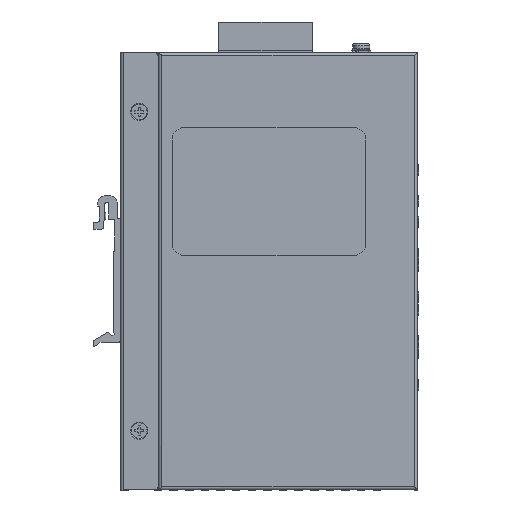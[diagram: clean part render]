
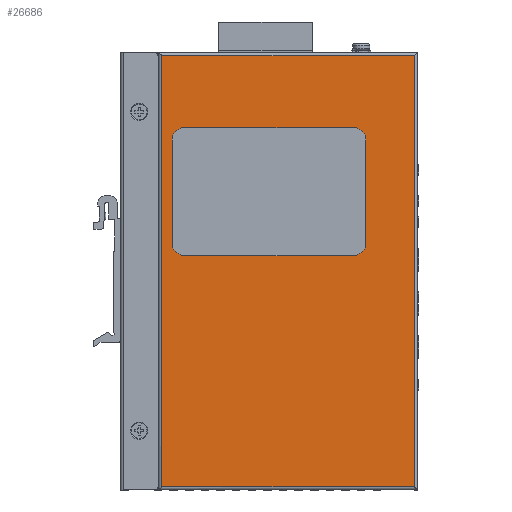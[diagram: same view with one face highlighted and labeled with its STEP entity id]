
A CAD part, left-side view. The second image highlights one B-rep face of the part: STEP entity #26686.
In plain terms, the highlighted planar face has unit normal (-1, 0, 0).
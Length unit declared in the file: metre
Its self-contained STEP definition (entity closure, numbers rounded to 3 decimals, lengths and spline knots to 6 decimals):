
#1493=CIRCLE('',#29536,0.004);
#1494=CIRCLE('',#29537,0.004);
#1495=CIRCLE('',#29538,0.004);
#1496=CIRCLE('',#29539,0.004);
#8833=ORIENTED_EDGE('',*,*,#12438,.T.);
#8834=ORIENTED_EDGE('',*,*,#12443,.T.);
#8835=ORIENTED_EDGE('',*,*,#12448,.T.);
#8836=ORIENTED_EDGE('',*,*,#12721,.T.);
#8837=ORIENTED_EDGE('',*,*,#12754,.F.);
#8838=ORIENTED_EDGE('',*,*,#12755,.F.);
#8839=ORIENTED_EDGE('',*,*,#12756,.F.);
#8840=ORIENTED_EDGE('',*,*,#12757,.F.);
#8841=ORIENTED_EDGE('',*,*,#12758,.F.);
#8842=ORIENTED_EDGE('',*,*,#12759,.F.);
#8843=ORIENTED_EDGE('',*,*,#12760,.F.);
#8844=ORIENTED_EDGE('',*,*,#12761,.F.);
#12438=EDGE_CURVE('',#15057,#15058,#17634,.T.);
#12443=EDGE_CURVE('',#15058,#15061,#17637,.T.);
#12448=EDGE_CURVE('',#15061,#15065,#17640,.T.);
#12721=EDGE_CURVE('',#15065,#15057,#17780,.T.);
#12754=EDGE_CURVE('',#15304,#15305,#17793,.T.);
#12755=EDGE_CURVE('',#15306,#15304,#1493,.T.);
#12756=EDGE_CURVE('',#15307,#15306,#17794,.T.);
#12757=EDGE_CURVE('',#15308,#15307,#1494,.T.);
#12758=EDGE_CURVE('',#15309,#15308,#17795,.T.);
#12759=EDGE_CURVE('',#15310,#15309,#1495,.T.);
#12760=EDGE_CURVE('',#15311,#15310,#17796,.T.);
#12761=EDGE_CURVE('',#15305,#15311,#1496,.T.);
#15057=VERTEX_POINT('',#48058);
#15058=VERTEX_POINT('',#48059);
#15061=VERTEX_POINT('',#48084);
#15065=VERTEX_POINT('',#48109);
#15304=VERTEX_POINT('',#48778);
#15305=VERTEX_POINT('',#48779);
#15306=VERTEX_POINT('',#48781);
#15307=VERTEX_POINT('',#48783);
#15308=VERTEX_POINT('',#48785);
#15309=VERTEX_POINT('',#48787);
#15310=VERTEX_POINT('',#48789);
#15311=VERTEX_POINT('',#48791);
#17634=LINE('',#48057,#20103);
#17637=LINE('',#48083,#20106);
#17640=LINE('',#48110,#20109);
#17780=LINE('',#48703,#20249);
#17793=LINE('',#48777,#20262);
#17794=LINE('',#48782,#20263);
#17795=LINE('',#48786,#20264);
#17796=LINE('',#48790,#20265);
#20103=VECTOR('',#36336,1.);
#20106=VECTOR('',#36341,1.);
#20109=VECTOR('',#36346,1.);
#20249=VECTOR('',#36964,1.);
#20262=VECTOR('',#37051,1.);
#20263=VECTOR('',#37054,1.);
#20264=VECTOR('',#37057,1.);
#20265=VECTOR('',#37060,1.);
#22147=EDGE_LOOP('',(#8833,#8834,#8835,#8836));
#22148=EDGE_LOOP('',(#8837,#8838,#8839,#8840,#8841,#8842,#8843,#8844));
#24181=FACE_BOUND('',#22147,.T.);
#24182=FACE_BOUND('',#22148,.T.);
#25266=PLANE('',#29535);
#26686=ADVANCED_FACE('',(#24181,#24182),#25266,.T.);
#29535=AXIS2_PLACEMENT_3D('',#48776,#37049,#37050);
#29536=AXIS2_PLACEMENT_3D('',#48780,#37052,#37053);
#29537=AXIS2_PLACEMENT_3D('',#48784,#37055,#37056);
#29538=AXIS2_PLACEMENT_3D('',#48788,#37058,#37059);
#29539=AXIS2_PLACEMENT_3D('',#48792,#37061,#37062);
#36336=DIRECTION('',(0.,-1.,0.));
#36341=DIRECTION('',(0.,0.,1.));
#36346=DIRECTION('',(0.,1.,0.));
#36964=DIRECTION('',(0.,0.,-1.));
#37049=DIRECTION('',(-1.,0.,0.));
#37050=DIRECTION('',(0.,0.,1.));
#37051=DIRECTION('',(0.,0.,-1.));
#37052=DIRECTION('',(-1.,0.,0.));
#37053=DIRECTION('',(0.,0.,1.));
#37054=DIRECTION('',(0.,1.,0.));
#37055=DIRECTION('',(-1.,0.,0.));
#37056=DIRECTION('',(0.,-1.,0.));
#37057=DIRECTION('',(0.,0.,1.));
#37058=DIRECTION('',(-1.,0.,0.));
#37059=DIRECTION('',(0.,0.,-1.));
#37060=DIRECTION('',(0.,-1.,0.));
#37061=DIRECTION('',(-1.,0.,0.));
#37062=DIRECTION('',(0.,1.,0.));
#48057=CARTESIAN_POINT('',(0.,0.0818,-0.069));
#48058=CARTESIAN_POINT('',(0.,0.0818,-0.069));
#48059=CARTESIAN_POINT('',(0.,0.001,-0.069));
#48083=CARTESIAN_POINT('',(0.,0.001,-0.069));
#48084=CARTESIAN_POINT('',(0.,0.001,0.069));
#48109=CARTESIAN_POINT('',(0.,0.0818,0.069));
#48110=CARTESIAN_POINT('',(0.,0.001,0.069));
#48703=CARTESIAN_POINT('',(0.,0.0818,0.069));
#48776=CARTESIAN_POINT('',(0.,0.,0.07));
#48777=CARTESIAN_POINT('',(0.,0.0785,0.042));
#48778=CARTESIAN_POINT('',(0.,0.0785,0.042));
#48779=CARTESIAN_POINT('',(0.,0.0785,0.009));
#48780=CARTESIAN_POINT('',(0.,0.0745,0.042));
#48781=CARTESIAN_POINT('',(0.,0.0745,0.046));
#48782=CARTESIAN_POINT('',(0.,0.0205,0.046));
#48783=CARTESIAN_POINT('',(0.,0.0205,0.046));
#48784=CARTESIAN_POINT('',(0.,0.0205,0.042));
#48785=CARTESIAN_POINT('',(0.,0.0165,0.042));
#48786=CARTESIAN_POINT('',(0.,0.0165,0.009));
#48787=CARTESIAN_POINT('',(0.,0.0165,0.009));
#48788=CARTESIAN_POINT('',(0.,0.0205,0.009));
#48789=CARTESIAN_POINT('',(0.,0.0205,0.005));
#48790=CARTESIAN_POINT('',(0.,0.0745,0.005));
#48791=CARTESIAN_POINT('',(0.,0.0745,0.005));
#48792=CARTESIAN_POINT('',(0.,0.0745,0.009));
